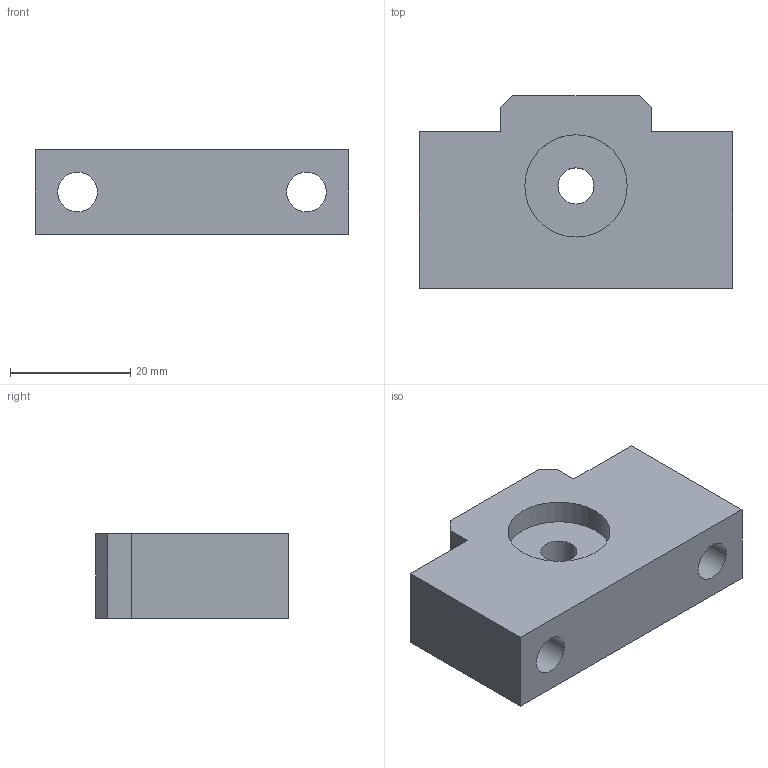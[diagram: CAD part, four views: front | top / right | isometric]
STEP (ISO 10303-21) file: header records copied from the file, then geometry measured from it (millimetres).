
FILE_DESCRIPTION(/* description */ (''),/* implementation_level */ '2;1');
FILE_NAME(/* name */ 'C:\Users\tenki620635\Desktop\官網\圖面\軸承座\3D\setp檔\EF08.stp',/* time_stamp */ '2020-11-20T18:08:16+08:00',/* author */ ('tenki620635'),/* organization */ (''),/* preprocessor_version */ 'ST-DEVELOPER v15.2',/* originating_system */ 'Autodesk Inventor 2014',/* authorisation */ '');
FILE_SCHEMA (('AUTOMOTIVE_DESIGN { 1 0 10303 214 3 1 1 }'));
Length unit declared in the file: millimetre
Products named in the file (1): EF08
Bounding box: 52 x 32 x 14 mm (x, y, z)
Volume: 15747.8 mm3; surface area: 7072.1 mm2
Topology: 1 solids, 1 shells, 23 faces, 51 edges, 34 vertices
Faces by surface type: plane 16, cylinder 7
Full cylindrical faces by diameter (mm): 6 x1, 6.6 x2, 11 x2, 17 x2
Entity records: 637 total; most frequent: DIRECTION 106, CARTESIAN_POINT 102, ORIENTED_EDGE 88, EDGE_CURVE 44, EDGE_LOOP 40, AXIS2_PLACEMENT_3D 38, VERTEX_POINT 34, LINE 30
